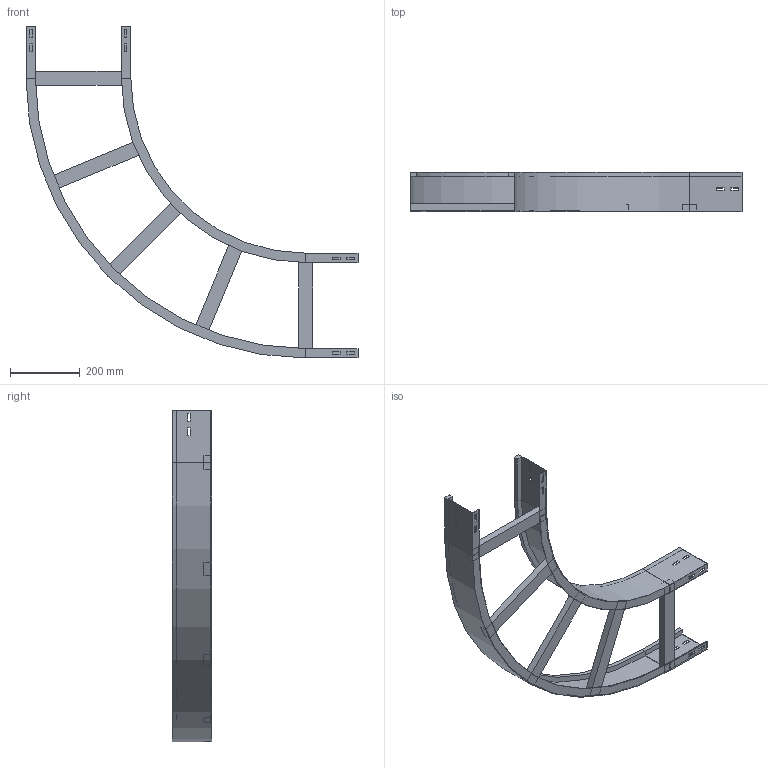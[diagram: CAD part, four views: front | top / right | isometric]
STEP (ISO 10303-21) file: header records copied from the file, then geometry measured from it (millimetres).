
FILE_DESCRIPTION (( 'STEP AP214' ), '1' );
FILE_NAME ('10B5J300.step', '2025-02-21T15:24:01', ( '' ), ( '' ), 'SwSTEP 2.0', 'SolidWorks 2023', '' );
FILE_SCHEMA (( 'AUTOMOTIVE_DESIGN' ));
Length unit declared in the file: millimetre
Products named in the file (4): 10B5J300; TRAVERSINO_300; A2_LONGH.INTERNO 90°_H112.5_R500; A2_LONGH.ESTERNO 90°_H112.5_R500+300
Assembly tree (7 placements, depth 2):
  10B5J300
    A2_LONGH.INTERNO 90°_H112.5_R500
    A2_LONGH.ESTERNO 90°_H112.5_R500+300
    TRAVERSINO_300  x5
Bounding box: 950 x 112.5 x 950 mm (x, y, z)
Volume: 2427702.4 mm3; surface area: 1007649 mm2
Topology: 7 solids, 7 shells, 146 faces, 364 edges, 232 vertices
Faces by surface type: plane 138, cylinder 8
Entity records: 3837 total; most frequent: CARTESIAN_POINT 648, ORIENTED_EDGE 632, DIRECTION 596, EDGE_CURVE 316, VECTOR 300, LINE 300, VERTEX_POINT 200, EDGE_LOOP 154
